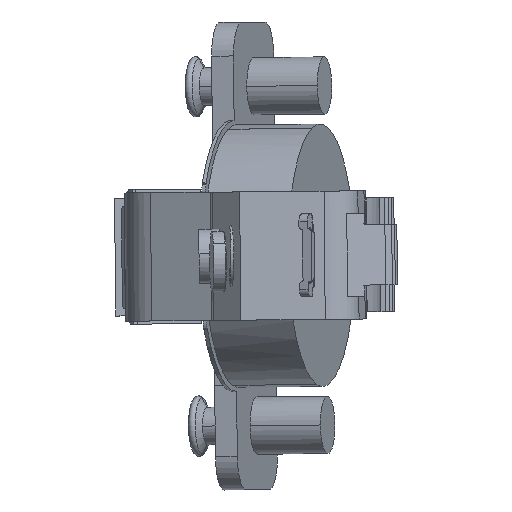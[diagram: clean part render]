
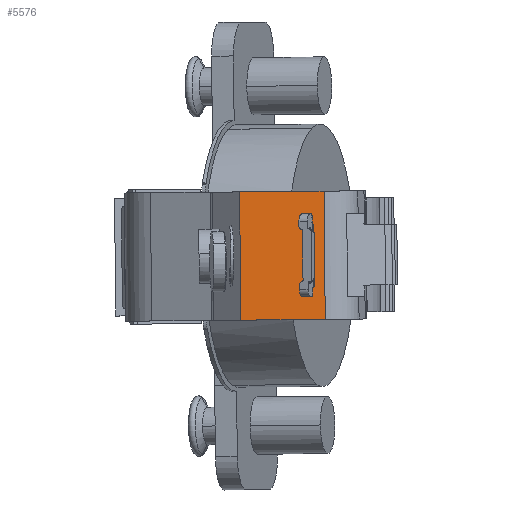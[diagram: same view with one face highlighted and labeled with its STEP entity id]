
A CAD part, left-side view. The second image highlights one B-rep face of the part: STEP entity #5576.
In plain terms, the highlighted planar face has unit normal (-0.998, -0.068, 0.001).
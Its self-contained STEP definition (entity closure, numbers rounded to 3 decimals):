
#173 = DIRECTION ( 'NONE',  ( -0.998, -0.068, 0.001 ) ) ;
#253 = ORIENTED_EDGE ( 'NONE', *, *, #12743, .F. ) ;
#451 = EDGE_CURVE ( 'NONE', #11315, #3606, #10197, .T. ) ;
#465 = CARTESIAN_POINT ( 'NONE',  ( -73.38, 16.303, -107.057 ) ) ;
#523 = CARTESIAN_POINT ( 'NONE',  ( -73.197, 14.374, -26.532 ) ) ;
#677 = VECTOR ( 'NONE', #9124, 1000. ) ;
#1105 = CARTESIAN_POINT ( 'NONE',  ( -73.298, 15.1, -107.045 ) ) ;
#1113 = CARTESIAN_POINT ( 'NONE',  ( -73.298, 15.973, -13.947 ) ) ;
#1357 = VECTOR ( 'NONE', #1653, 1000. ) ;
#1485 = CARTESIAN_POINT ( 'NONE',  ( -73.197, 14.533, -9.533 ) ) ;
#1653 = DIRECTION ( 'NONE',  ( 0., 0.009, 1. ) ) ;
#1661 = ORIENTED_EDGE ( 'NONE', *, *, #11177, .F. ) ;
#2219 = CARTESIAN_POINT ( 'NONE',  ( -73.963, 25.567, -26.637 ) ) ;
#2367 = ORIENTED_EDGE ( 'NONE', *, *, #3732, .T. ) ;
#2500 = VECTOR ( 'NONE', #12078, 1000. ) ;
#2695 = CARTESIAN_POINT ( 'NONE',  ( -73.963, 25.727, -9.638 ) ) ;
#3503 = LINE ( 'NONE', #3562, #2500 ) ;
#3562 = CARTESIAN_POINT ( 'NONE',  ( -73.86, 24.112, -22.223 ) ) ;
#3606 = VERTEX_POINT ( 'NONE', #1113 ) ;
#3732 = EDGE_CURVE ( 'NONE', #11943, #11845, #3503, .T. ) ;
#4756 = CARTESIAN_POINT ( 'NONE',  ( -73.86, 24.189, -14.024 ) ) ;
#4768 = DIRECTION ( 'NONE',  ( 0., -0.009, -1. ) ) ;
#4945 = VECTOR ( 'NONE', #4768, 1000. ) ;
#5576 = ADVANCED_FACE ( 'NONE', ( #13396, #9910 ), #10050, .T. ) ;
#6211 = ORIENTED_EDGE ( 'NONE', *, *, #7269, .F. ) ;
#6261 = DIRECTION ( 'NONE',  ( 0., 0.009, 1. ) ) ;
#6402 = VERTEX_POINT ( 'NONE', #2219 ) ;
#6552 = CARTESIAN_POINT ( 'NONE',  ( -73.86, 24.071, -26.623 ) ) ;
#6595 = VERTEX_POINT ( 'NONE', #2695 ) ;
#6631 = VECTOR ( 'NONE', #12787, 1000. ) ;
#6829 = AXIS2_PLACEMENT_3D ( 'NONE', #10975, #173, #10122 ) ;
#7047 = LINE ( 'NONE', #7971, #10624 ) ;
#7269 = EDGE_CURVE ( 'NONE', #11315, #11845, #7705, .T. ) ;
#7417 = LINE ( 'NONE', #9495, #12133 ) ;
#7623 = ORIENTED_EDGE ( 'NONE', *, *, #7911, .T. ) ;
#7705 = LINE ( 'NONE', #465, #4945 ) ;
#7911 = EDGE_CURVE ( 'NONE', #9767, #10988, #10064, .T. ) ;
#7971 = CARTESIAN_POINT ( 'NONE',  ( -73.86, 24.23, -9.624 ) ) ;
#8980 = CARTESIAN_POINT ( 'NONE',  ( -73.197, 13.619, -107.031 ) ) ;
#9124 = DIRECTION ( 'NONE',  ( 0.068, -0.998, 0.009 ) ) ;
#9200 = DIRECTION ( 'NONE',  ( 0.068, -0.998, 0.009 ) ) ;
#9257 = EDGE_LOOP ( 'NONE', ( #10960, #2367, #6211, #13440 ) ) ;
#9495 = CARTESIAN_POINT ( 'NONE',  ( -73.963, 24.813, -107.136 ) ) ;
#9739 = CARTESIAN_POINT ( 'NONE',  ( -73.298, 15.896, -22.146 ) ) ;
#9767 = VERTEX_POINT ( 'NONE', #523 ) ;
#9795 = LINE ( 'NONE', #6552, #12789 ) ;
#9910 = FACE_BOUND ( 'NONE', #9257, .T. ) ;
#10050 = PLANE ( 'NONE',  #6829 ) ;
#10064 = LINE ( 'NONE', #8980, #1357 ) ;
#10122 = DIRECTION ( 'NONE',  ( -0.068, 0.998, 0. ) ) ;
#10125 = CARTESIAN_POINT ( 'NONE',  ( -73.38, 17.176, -13.958 ) ) ;
#10197 = LINE ( 'NONE', #4756, #677 ) ;
#10624 = VECTOR ( 'NONE', #9200, 1000. ) ;
#10681 = EDGE_LOOP ( 'NONE', ( #7623, #1661, #253, #13895 ) ) ;
#10960 = ORIENTED_EDGE ( 'NONE', *, *, #12338, .F. ) ;
#10975 = CARTESIAN_POINT ( 'NONE',  ( -73.86, 23.316, -107.122 ) ) ;
#10988 = VERTEX_POINT ( 'NONE', #1485 ) ;
#11177 = EDGE_CURVE ( 'NONE', #6595, #10988, #7047, .T. ) ;
#11315 = VERTEX_POINT ( 'NONE', #10125 ) ;
#11845 = VERTEX_POINT ( 'NONE', #13793 ) ;
#11943 = VERTEX_POINT ( 'NONE', #9739 ) ;
#12078 = DIRECTION ( 'NONE',  ( -0.068, 0.998, -0.009 ) ) ;
#12133 = VECTOR ( 'NONE', #6261, 1000. ) ;
#12338 = EDGE_CURVE ( 'NONE', #11943, #3606, #13990, .T. ) ;
#12743 = EDGE_CURVE ( 'NONE', #6402, #6595, #7417, .T. ) ;
#12787 = DIRECTION ( 'NONE',  ( 0., 0.009, 1. ) ) ;
#12789 = VECTOR ( 'NONE', #13921, 1000. ) ;
#13396 = FACE_OUTER_BOUND ( 'NONE', #10681, .T. ) ;
#13440 = ORIENTED_EDGE ( 'NONE', *, *, #451, .T. ) ;
#13559 = EDGE_CURVE ( 'NONE', #9767, #6402, #9795, .T. ) ;
#13793 = CARTESIAN_POINT ( 'NONE',  ( -73.38, 17.099, -22.157 ) ) ;
#13895 = ORIENTED_EDGE ( 'NONE', *, *, #13559, .F. ) ;
#13921 = DIRECTION ( 'NONE',  ( -0.068, 0.998, -0.009 ) ) ;
#13990 = LINE ( 'NONE', #1105, #6631 ) ;
